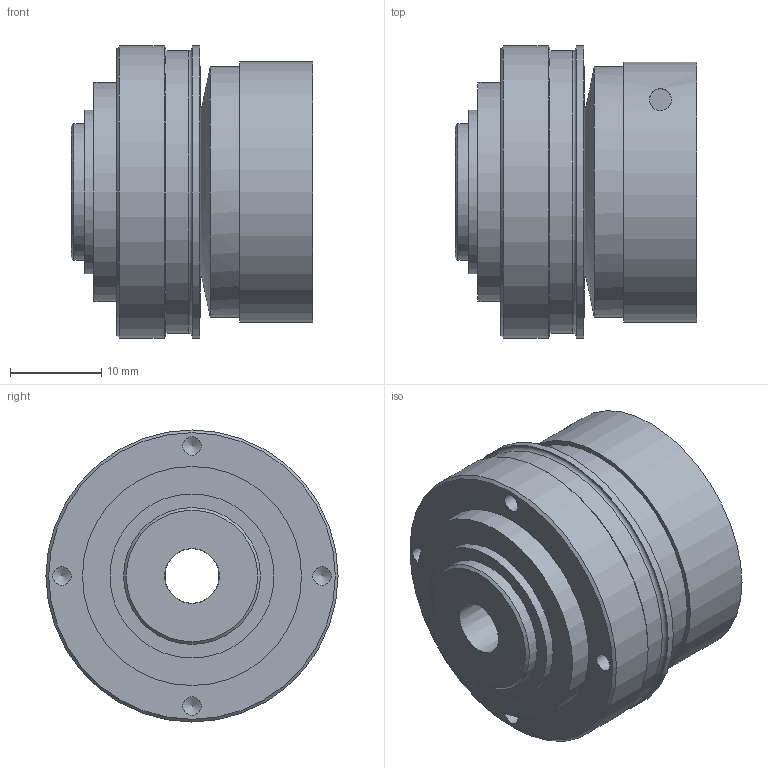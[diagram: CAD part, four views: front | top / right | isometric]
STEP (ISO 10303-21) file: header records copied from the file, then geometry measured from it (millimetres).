
FILE_DESCRIPTION(/* description */ ('Unknown','CAx-IF Rec.Pracs.---Representation and Presentation of Product Manufacturing Information (PMI)---4.0---2014-10-13','CAx-IF Rec.Pracs.---3D Tessellated Geometry---0.4---2014-09-14','2;1'),/* implementation_level */ '2;1');
FILE_NAME(/* name */ 'SKB 3',/* time_stamp */ '2024-08-08T13:43:21+02:00',/* author */ ('Unknown'),/* organization */ ('Unknown'),/* preprocessor_version */ 'ST-DEVELOPER v18.102',/* originating_system */ 'Solid Edge',/* authorisation */ 'Unknown');
FILE_SCHEMA (('AP242_MANAGED_MODEL_BASED_3D_ENGINEERING_MIM_LF { 1 0 10303 442 1 1 4 }'));
Length unit declared in the file: millimetre
Products named in the file (1): SKB   3
Bounding box: 26.5 x 32 x 32 mm (x, y, z)
Volume: 15216.4 mm3; surface area: 5671.5 mm2
Topology: 1 solids, 2 shells, 56 faces, 126 edges, 82 vertices
Faces by surface type: plane 23, cylinder 21, cone 10, torus 2
Full cylindrical faces by diameter (mm): 2.013 x8, 2.4 x2, 3 x1, 5.5 x1, 6 x1, 15 x1, 17.967 x1, 24 x1, 27.5 x1, 31 x1, 32 x2
Entity records: 1719 total; most frequent: CARTESIAN_POINT 254, DIRECTION 230, ORIENTED_EDGE 152, FACE_BOUND 104, AXIS2_PLACEMENT_3D 103, EDGE_LOOP 100, EDGE_CURVE 76, VERTEX_POINT 68
